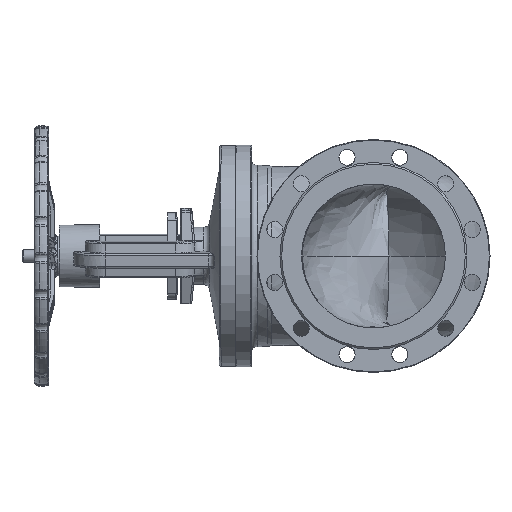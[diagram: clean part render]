
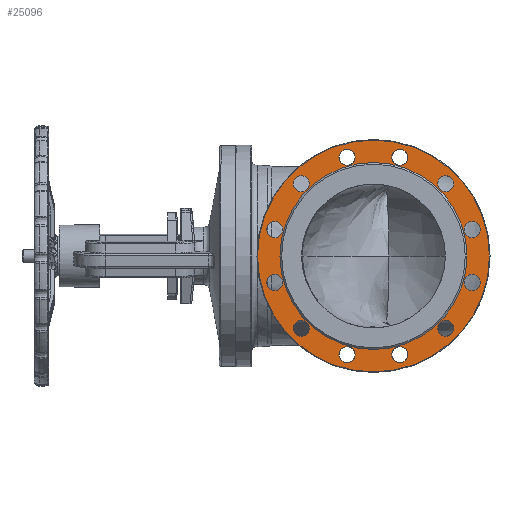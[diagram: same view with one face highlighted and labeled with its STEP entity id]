
A CAD part, left-side view. The second image highlights one B-rep face of the part: STEP entity #25096.
In plain terms, the highlighted planar face has unit normal (-1, 0, 0).
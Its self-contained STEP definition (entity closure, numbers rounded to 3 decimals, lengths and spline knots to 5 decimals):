
#256=PLANE('',#27191);
#1495=FACE_BOUND('',#5099,.T.);
#1496=FACE_BOUND('',#5100,.T.);
#1497=FACE_BOUND('',#5101,.T.);
#1498=FACE_BOUND('',#5102,.T.);
#1499=FACE_BOUND('',#5103,.T.);
#1500=FACE_BOUND('',#5104,.T.);
#1501=FACE_BOUND('',#5105,.T.);
#1502=FACE_BOUND('',#5106,.T.);
#1503=FACE_BOUND('',#5107,.T.);
#1504=FACE_BOUND('',#5108,.T.);
#1505=FACE_BOUND('',#5109,.T.);
#1506=FACE_BOUND('',#5110,.T.);
#1507=FACE_BOUND('',#5111,.T.);
#3399=FACE_OUTER_BOUND('',#5098,.T.);
#5098=EDGE_LOOP('',(#18540));
#5099=EDGE_LOOP('',(#18541));
#5100=EDGE_LOOP('',(#18542));
#5101=EDGE_LOOP('',(#18543));
#5102=EDGE_LOOP('',(#18544));
#5103=EDGE_LOOP('',(#18545));
#5104=EDGE_LOOP('',(#18546));
#5105=EDGE_LOOP('',(#18547));
#5106=EDGE_LOOP('',(#18548));
#5107=EDGE_LOOP('',(#18549));
#5108=EDGE_LOOP('',(#18550));
#5109=EDGE_LOOP('',(#18551));
#5110=EDGE_LOOP('',(#18552));
#5111=EDGE_LOOP('',(#18553));
#8798=CIRCLE('',#26963,0.2015);
#8820=CIRCLE('',#27004,0.014);
#8822=CIRCLE('',#27007,0.014);
#8824=CIRCLE('',#27010,0.014);
#8826=CIRCLE('',#27013,0.014);
#8828=CIRCLE('',#27016,0.014);
#8830=CIRCLE('',#27019,0.014);
#8832=CIRCLE('',#27022,0.014);
#8834=CIRCLE('',#27025,0.014);
#8836=CIRCLE('',#27028,0.014);
#8838=CIRCLE('',#27031,0.014);
#8840=CIRCLE('',#27034,0.014);
#8842=CIRCLE('',#27037,0.014);
#8878=CIRCLE('',#27101,0.1625);
#10429=VERTEX_POINT('',#39598);
#10477=VERTEX_POINT('',#41912);
#10479=VERTEX_POINT('',#41918);
#10481=VERTEX_POINT('',#41924);
#10483=VERTEX_POINT('',#41930);
#10485=VERTEX_POINT('',#41936);
#10487=VERTEX_POINT('',#41942);
#10489=VERTEX_POINT('',#41948);
#10491=VERTEX_POINT('',#41954);
#10493=VERTEX_POINT('',#41960);
#10495=VERTEX_POINT('',#41966);
#10497=VERTEX_POINT('',#41972);
#10499=VERTEX_POINT('',#41978);
#10655=VERTEX_POINT('',#99628);
#13102=EDGE_CURVE('',#10429,#10429,#8798,.T.);
#13169=EDGE_CURVE('',#10477,#10477,#8820,.T.);
#13172=EDGE_CURVE('',#10479,#10479,#8822,.T.);
#13175=EDGE_CURVE('',#10481,#10481,#8824,.T.);
#13178=EDGE_CURVE('',#10483,#10483,#8826,.T.);
#13181=EDGE_CURVE('',#10485,#10485,#8828,.T.);
#13184=EDGE_CURVE('',#10487,#10487,#8830,.T.);
#13187=EDGE_CURVE('',#10489,#10489,#8832,.T.);
#13190=EDGE_CURVE('',#10491,#10491,#8834,.T.);
#13193=EDGE_CURVE('',#10493,#10493,#8836,.T.);
#13196=EDGE_CURVE('',#10495,#10495,#8838,.T.);
#13199=EDGE_CURVE('',#10497,#10497,#8840,.T.);
#13202=EDGE_CURVE('',#10499,#10499,#8842,.T.);
#13390=EDGE_CURVE('',#10655,#10655,#8878,.T.);
#18540=ORIENTED_EDGE('',*,*,#13102,.T.);
#18541=ORIENTED_EDGE('',*,*,#13169,.T.);
#18542=ORIENTED_EDGE('',*,*,#13172,.T.);
#18543=ORIENTED_EDGE('',*,*,#13175,.T.);
#18544=ORIENTED_EDGE('',*,*,#13178,.T.);
#18545=ORIENTED_EDGE('',*,*,#13181,.T.);
#18546=ORIENTED_EDGE('',*,*,#13184,.T.);
#18547=ORIENTED_EDGE('',*,*,#13187,.T.);
#18548=ORIENTED_EDGE('',*,*,#13190,.T.);
#18549=ORIENTED_EDGE('',*,*,#13193,.T.);
#18550=ORIENTED_EDGE('',*,*,#13196,.T.);
#18551=ORIENTED_EDGE('',*,*,#13199,.T.);
#18552=ORIENTED_EDGE('',*,*,#13202,.T.);
#18553=ORIENTED_EDGE('',*,*,#13390,.F.);
#25096=ADVANCED_FACE('',(#3399,#1495,#1496,#1497,#1498,#1499,#1500,#1501,
#1502,#1503,#1504,#1505,#1506,#1507),#256,.F.);
#26963=AXIS2_PLACEMENT_3D('',#39600,#30253,#30254);
#27004=AXIS2_PLACEMENT_3D('',#41914,#30353,#30354);
#27007=AXIS2_PLACEMENT_3D('',#41920,#30360,#30361);
#27010=AXIS2_PLACEMENT_3D('',#41926,#30367,#30368);
#27013=AXIS2_PLACEMENT_3D('',#41932,#30374,#30375);
#27016=AXIS2_PLACEMENT_3D('',#41938,#30381,#30382);
#27019=AXIS2_PLACEMENT_3D('',#41944,#30388,#30389);
#27022=AXIS2_PLACEMENT_3D('',#41950,#30395,#30396);
#27025=AXIS2_PLACEMENT_3D('',#41956,#30402,#30403);
#27028=AXIS2_PLACEMENT_3D('',#41962,#30409,#30410);
#27031=AXIS2_PLACEMENT_3D('',#41968,#30416,#30417);
#27034=AXIS2_PLACEMENT_3D('',#41974,#30423,#30424);
#27037=AXIS2_PLACEMENT_3D('',#41980,#30430,#30431);
#27101=AXIS2_PLACEMENT_3D('',#99629,#30580,#30581);
#27191=AXIS2_PLACEMENT_3D('',#178667,#30788,#30789);
#30253=DIRECTION('center_axis',(-1.,0.,0.));
#30254=DIRECTION('ref_axis',(0.,1.,0.));
#30353=DIRECTION('center_axis',(1.,0.,0.));
#30354=DIRECTION('ref_axis',(0.,1.,0.));
#30360=DIRECTION('center_axis',(1.,0.,0.));
#30361=DIRECTION('ref_axis',(0.,1.,0.));
#30367=DIRECTION('center_axis',(1.,0.,0.));
#30368=DIRECTION('ref_axis',(0.,1.,0.));
#30374=DIRECTION('center_axis',(1.,0.,0.));
#30375=DIRECTION('ref_axis',(0.,1.,0.));
#30381=DIRECTION('center_axis',(1.,0.,0.));
#30382=DIRECTION('ref_axis',(0.,1.,0.));
#30388=DIRECTION('center_axis',(1.,0.,0.));
#30389=DIRECTION('ref_axis',(0.,1.,0.));
#30395=DIRECTION('center_axis',(1.,0.,0.));
#30396=DIRECTION('ref_axis',(0.,1.,0.));
#30402=DIRECTION('center_axis',(1.,0.,0.));
#30403=DIRECTION('ref_axis',(0.,1.,0.));
#30409=DIRECTION('center_axis',(1.,0.,0.));
#30410=DIRECTION('ref_axis',(0.,1.,0.));
#30416=DIRECTION('center_axis',(1.,0.,0.));
#30417=DIRECTION('ref_axis',(0.,1.,0.));
#30423=DIRECTION('center_axis',(1.,0.,0.));
#30424=DIRECTION('ref_axis',(0.,1.,0.));
#30430=DIRECTION('center_axis',(1.,0.,0.));
#30431=DIRECTION('ref_axis',(0.,1.,0.));
#30580=DIRECTION('center_axis',(-1.,0.,0.));
#30581=DIRECTION('ref_axis',(0.,-1.,0.));
#30788=DIRECTION('center_axis',(1.,0.,0.));
#30789=DIRECTION('ref_axis',(0.,1.,0.));
#39598=CARTESIAN_POINT('',(-0.36208,-0.021,0.2015));
#39600=CARTESIAN_POINT('Origin',(-0.36208,-0.021,
0.));
#41912=CARTESIAN_POINT('',(-0.36208,0.11851,-0.12551));
#41914=CARTESIAN_POINT('Origin',(-0.36208,0.10451,-0.12551));
#41918=CARTESIAN_POINT('',(-0.36208,0.16445,-0.04594));
#41920=CARTESIAN_POINT('Origin',(-0.36208,0.15045,-0.04594));
#41924=CARTESIAN_POINT('',(-0.36208,0.16445,0.04594));
#41926=CARTESIAN_POINT('Origin',(-0.36208,0.15045,0.04594));
#41930=CARTESIAN_POINT('',(-0.36208,0.11851,0.12551));
#41932=CARTESIAN_POINT('Origin',(-0.36208,0.10451,0.12551));
#41936=CARTESIAN_POINT('',(-0.36208,0.03894,0.17145));
#41938=CARTESIAN_POINT('Origin',(-0.36208,0.02494,
0.17145));
#41942=CARTESIAN_POINT('',(-0.36208,-0.05294,0.17145));
#41944=CARTESIAN_POINT('Origin',(-0.36208,-0.06694,
0.17145));
#41948=CARTESIAN_POINT('',(-0.36208,-0.13251,0.12551));
#41950=CARTESIAN_POINT('Origin',(-0.36208,-0.14651,
0.12551));
#41954=CARTESIAN_POINT('',(-0.36208,-0.17845,0.04594));
#41956=CARTESIAN_POINT('Origin',(-0.36208,-0.19245,
0.04594));
#41960=CARTESIAN_POINT('',(-0.36208,-0.17845,-0.04594));
#41962=CARTESIAN_POINT('Origin',(-0.36208,-0.19245,
-0.04594));
#41966=CARTESIAN_POINT('',(-0.36208,-0.13251,-0.12551));
#41968=CARTESIAN_POINT('Origin',(-0.36208,-0.14651,
-0.12551));
#41972=CARTESIAN_POINT('',(-0.36208,-0.05294,-0.17145));
#41974=CARTESIAN_POINT('Origin',(-0.36208,-0.06694,
-0.17145));
#41978=CARTESIAN_POINT('',(-0.36208,0.03894,-0.17145));
#41980=CARTESIAN_POINT('Origin',(-0.36208,0.02494,
-0.17145));
#99628=CARTESIAN_POINT('',(-0.36208,-0.1835,0.));
#99629=CARTESIAN_POINT('Origin',(-0.36208,-0.021,
0.));
#178667=CARTESIAN_POINT('Origin',(-0.36208,0.,
0.));
